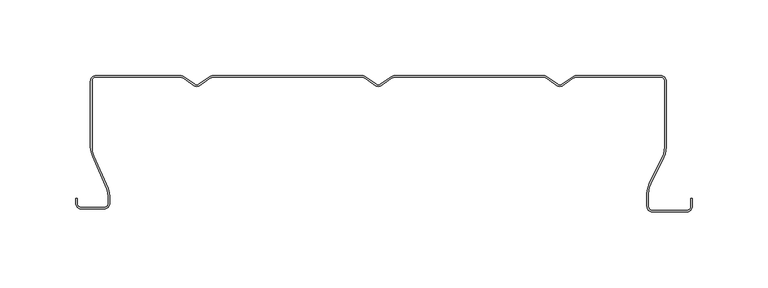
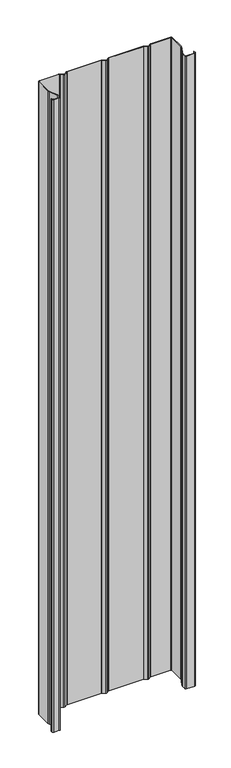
"""IFC4 building model written with IfcOpenShell, lengths in millimetres: plate geometry, HIANSA - H20.F09.006-CHAPA PERFILADA FACHADA VERTICAL - BANDEJA 90.380 - Panel de Muro Cortina : -."""

from ifc_helpers import new_model, si_unit, point, frame_2d, origin, origin_with_axes, place, context, project, spatial, polyline, circle_curve, trimmed, segment, composite_curve, outline, extrude, source, transform, mapped, element, save


def plate_6bf708f3(model_context):
    return source(origin(), model_context, "Body", "SweptSolid", [
        extrude(outline(composite_curve([segment(polyline([(206.1999998, -86.7), (206.1999998, -81.285), (207.1999998, -81.285), (207.1999998, -86.7)]), True, "CONTINUOUS"), segment(trimmed(circle_curve(frame_2d((203.6999998, -86.7)), 3.5), [point((207.1999998, -86.7))], [point((203.6999998, -90.2))], False, "CARTESIAN"), True, "CONTINUOUS"), segment(polyline([(203.6999998, -90.2), (180.6999998, -90.2)]), True, "CONTINUOUS"), segment(trimmed(circle_curve(frame_2d((180.6999998, -86.7)), 3.5), [point((180.6999998, -90.2))], [point((177.1999998, -86.7))], False, "CARTESIAN"), True, "CONTINUOUS"), segment(polyline([(177.1999998, -86.7), (177.1999998, -78.3893434)]), True, "CONTINUOUS"), segment(trimmed(circle_curve(frame_2d((192.9999998, -78.3893434)), 15.8), [point((177.1999998, -78.3893434))], [point((178.8088898, -71.442949))], False, "CARTESIAN"), True, "CONTINUOUS"), segment(polyline([(178.8088898, -71.442949), (187.3725727, -53.9478055)]), True, "CONTINUOUS"), segment(trimmed(circle_curve(frame_2d((173.8999998, -47.3531272)), 15.0), [point((187.3725727, -53.9478055))], [point((188.8999998, -47.3531272))], True, "CARTESIAN"), True, "CONTINUOUS"), segment(polyline([(188.8999998, -47.3531272), (188.8999998, -3.7)]), True, "CONTINUOUS"), segment(trimmed(circle_curve(frame_2d((186.1999998, -3.7)), 2.7), [point((188.8999998, -3.7))], [point((186.1999998, -1.0))], True, "CARTESIAN"), True, "CONTINUOUS"), segment(polyline([(186.1999998, -1.0), (130.5513065, -1.0)]), True, "CONTINUOUS"), segment(trimmed(circle_curve(frame_2d((130.5513065, -3.7)), 2.7), [point((130.5513065, -1.0))], [point((129.0026502, -1.4882894))], True, "CARTESIAN"), True, "CONTINUOUS"), segment(polyline([(129.0026502, -1.4882894), (121.7075173, -6.5963962)]), True, "CONTINUOUS"), segment(trimmed(circle_curve(frame_2d((119.6999998, -3.729364)), 3.5), [point((121.7075173, -6.5963962))], [point((117.6924824, -6.5963962))], False, "CARTESIAN"), True, "CONTINUOUS"), segment(polyline([(117.6924824, -6.5963962), (110.3973495, -1.4882894)]), True, "CONTINUOUS"), segment(trimmed(circle_curve(frame_2d((108.8486932, -3.7)), 2.7), [point((110.3973495, -1.4882894))], [point((108.8486932, -1.0))], True, "CARTESIAN"), True, "CONTINUOUS"), segment(polyline([(108.8486932, -1.0), (10.5513065, -1.0)]), True, "CONTINUOUS"), segment(trimmed(circle_curve(frame_2d((10.5513065, -3.7)), 2.7), [point((10.5513065, -1.0))], [point((9.0026502, -1.4882894))], True, "CARTESIAN"), True, "CONTINUOUS"), segment(polyline([(9.0026502, -1.4882894), (1.7075173, -6.5963962)]), True, "CONTINUOUS"), segment(trimmed(circle_curve(frame_2d((-0.3000002, -3.729364)), 3.5), [point((1.7075173, -6.5963962))], [point((-2.3075176, -6.5963962))], False, "CARTESIAN"), True, "CONTINUOUS"), segment(polyline([(-2.3075176, -6.5963962), (-9.6026505, -1.4882894)]), True, "CONTINUOUS"), segment(trimmed(circle_curve(frame_2d((-11.1513068, -3.7)), 2.7), [point((-9.6026505, -1.4882894))], [point((-11.1513068, -1.0))], True, "CARTESIAN"), True, "CONTINUOUS"), segment(polyline([(-11.1513068, -1.0), (-109.4486935, -1.0)]), True, "CONTINUOUS"), segment(trimmed(circle_curve(frame_2d((-109.4486935, -3.7)), 2.7), [point((-109.4486935, -1.0))], [point((-110.9973498, -1.4882894))], True, "CARTESIAN"), True, "CONTINUOUS"), segment(polyline([(-110.9973498, -1.4882894), (-118.2924827, -6.5963962)]), True, "CONTINUOUS"), segment(trimmed(circle_curve(frame_2d((-120.3000002, -3.729364)), 3.5), [point((-118.2924827, -6.5963962))], [point((-122.3075176, -6.5963962))], False, "CARTESIAN"), True, "CONTINUOUS"), segment(polyline([(-122.3075176, -6.5963962), (-129.6026505, -1.4882894)]), True, "CONTINUOUS"), segment(trimmed(circle_curve(frame_2d((-131.1513068, -3.7)), 2.7), [point((-129.6026505, -1.4882894))], [point((-131.1513068, -1.0))], True, "CARTESIAN"), True, "CONTINUOUS"), segment(polyline([(-131.1513068, -1.0), (-186.8000002, -1.0)]), True, "CONTINUOUS"), segment(trimmed(circle_curve(frame_2d((-186.8000002, -3.7)), 2.7), [point((-186.8000002, -1.0))], [point((-189.5000002, -3.7))], True, "CARTESIAN"), True, "CONTINUOUS"), segment(polyline([(-189.5000002, -3.7), (-189.5000002, -47.27269)]), True, "CONTINUOUS"), segment(trimmed(circle_curve(frame_2d((-174.5000002, -47.27269)), 15.0), [point((-189.5000002, -47.27269))], [point((-188.2231024, -53.3287998))], True, "CARTESIAN"), True, "CONTINUOUS"), segment(polyline([(-188.2231024, -53.3287998), (-178.7528567, -74.7883097)]), True, "CONTINUOUS"), segment(trimmed(circle_curve(frame_2d((-193.6000002, -80.192228)), 15.8), [point((-178.7528567, -74.7883097))], [point((-177.8000002, -80.192228))], False, "CARTESIAN"), True, "CONTINUOUS"), segment(polyline([(-177.8000002, -80.192228), (-177.8000002, -84.7)]), True, "CONTINUOUS"), segment(trimmed(circle_curve(frame_2d((-181.3000002, -84.7)), 3.5), [point((-177.8000002, -84.7))], [point((-181.3000002, -88.2))], False, "CARTESIAN"), True, "CONTINUOUS"), segment(polyline([(-181.3000002, -88.2), (-196.8000002, -88.2)]), True, "CONTINUOUS"), segment(trimmed(circle_curve(frame_2d((-196.8000002, -84.7)), 3.5), [point((-196.8000002, -88.2))], [point((-200.3000002, -84.7))], False, "CARTESIAN"), True, "CONTINUOUS"), segment(polyline([(-200.3000002, -84.7), (-200.3000002, -81.285), (-199.3000002, -81.285), (-199.3000002, -84.7)]), True, "CONTINUOUS"), segment(trimmed(circle_curve(frame_2d((-196.8000002, -84.7)), 2.5), [point((-199.3000002, -84.7))], [point((-196.8000002, -87.2))], True, "CARTESIAN"), True, "CONTINUOUS"), segment(polyline([(-196.8000002, -87.2), (-181.3000002, -87.2)]), True, "CONTINUOUS"), segment(trimmed(circle_curve(frame_2d((-181.3000002, -84.7)), 2.5), [point((-181.3000002, -87.2))], [point((-178.8000002, -84.7))], True, "CARTESIAN"), True, "CONTINUOUS"), segment(polyline([(-178.8000002, -84.7), (-178.8000002, -80.192228)]), True, "CONTINUOUS"), segment(trimmed(circle_curve(frame_2d((-193.6000002, -80.192228)), 14.8), [point((-178.8000002, -80.192228))], [point((-179.6813867, -75.1611049))], True, "CARTESIAN"), True, "CONTINUOUS"), segment(polyline([(-179.6813867, -75.1611049), (-189.1379758, -53.7325404)]), True, "CONTINUOUS"), segment(trimmed(circle_curve(frame_2d((-174.5000002, -47.27269)), 16.0), [point((-189.1379758, -53.7325404))], [point((-190.5000002, -47.27269))], False, "CARTESIAN"), True, "CONTINUOUS"), segment(polyline([(-190.5000002, -47.27269), (-190.5000002, -3.7)]), True, "CONTINUOUS"), segment(trimmed(circle_curve(frame_2d((-186.8000002, -3.7)), 3.7), [point((-190.5000002, -3.7))], [point((-186.8000002, 0.0))], False, "CARTESIAN"), True, "CONTINUOUS"), segment(polyline([(-186.8000002, 0.0), (-131.1513068, 0.0)]), True, "CONTINUOUS"), segment(trimmed(circle_curve(frame_2d((-131.1513068, -3.7)), 3.7), [point((-131.1513068, 0.0))], [point((-129.0290741, -0.6691374))], False, "CARTESIAN"), True, "CONTINUOUS"), segment(polyline([(-129.0290741, -0.6691374), (-121.7339412, -5.7772441)]), True, "CONTINUOUS"), segment(trimmed(circle_curve(frame_2d((-120.3000002, -3.729364)), 2.5), [point((-121.7339412, -5.7772441))], [point((-118.8660591, -5.7772441))], True, "CARTESIAN"), True, "CONTINUOUS"), segment(polyline([(-118.8660591, -5.7772441), (-111.5709262, -0.6691374)]), True, "CONTINUOUS"), segment(trimmed(circle_curve(frame_2d((-109.4486935, -3.7)), 3.7), [point((-111.5709262, -0.6691374))], [point((-109.4486935, 0.0))], False, "CARTESIAN"), True, "CONTINUOUS"), segment(polyline([(-109.4486935, 0.0), (-11.1513068, 0.0)]), True, "CONTINUOUS"), segment(trimmed(circle_curve(frame_2d((-11.1513068, -3.7)), 3.7), [point((-11.1513068, 0.0))], [point((-9.0290741, -0.6691374))], False, "CARTESIAN"), True, "CONTINUOUS"), segment(polyline([(-9.0290741, -0.6691374), (-1.7339412, -5.7772441)]), True, "CONTINUOUS"), segment(trimmed(circle_curve(frame_2d((-0.3000002, -3.729364)), 2.5), [point((-1.7339412, -5.7772441))], [point((1.1339409, -5.7772441))], True, "CARTESIAN"), True, "CONTINUOUS"), segment(polyline([(1.1339409, -5.7772441), (8.4290738, -0.6691374)]), True, "CONTINUOUS"), segment(trimmed(circle_curve(frame_2d((10.5513065, -3.7)), 3.7), [point((8.4290738, -0.6691374))], [point((10.5513065, 0.0))], False, "CARTESIAN"), True, "CONTINUOUS"), segment(polyline([(10.5513065, 0.0), (108.8486932, 0.0)]), True, "CONTINUOUS"), segment(trimmed(circle_curve(frame_2d((108.8486932, -3.7)), 3.7), [point((108.8486932, 0.0))], [point((110.9709259, -0.6691374))], False, "CARTESIAN"), True, "CONTINUOUS"), segment(polyline([(110.9709259, -0.6691374), (118.2660588, -5.7772441)]), True, "CONTINUOUS"), segment(trimmed(circle_curve(frame_2d((119.6999998, -3.729364)), 2.5), [point((118.2660588, -5.7772441))], [point((121.1339409, -5.7772441))], True, "CARTESIAN"), True, "CONTINUOUS"), segment(polyline([(121.1339409, -5.7772441), (128.4290738, -0.6691374)]), True, "CONTINUOUS"), segment(trimmed(circle_curve(frame_2d((130.5513065, -3.7)), 3.7), [point((128.4290738, -0.6691374))], [point((130.5513065, 0.0))], False, "CARTESIAN"), True, "CONTINUOUS"), segment(polyline([(130.5513065, 0.0), (186.1999998, 0.0)]), True, "CONTINUOUS"), segment(trimmed(circle_curve(frame_2d((186.1999998, -3.7)), 3.7), [point((186.1999998, 0.0))], [point((189.8999998, -3.7))], False, "CARTESIAN"), True, "CONTINUOUS"), segment(polyline([(189.8999998, -3.7), (189.8999998, -47.3531272)]), True, "CONTINUOUS"), segment(trimmed(circle_curve(frame_2d((173.8999998, -47.3531272)), 16.0), [point((189.8999998, -47.3531272))], [point((188.2707442, -54.3874507))], False, "CARTESIAN"), True, "CONTINUOUS"), segment(polyline([(188.2707442, -54.3874507), (179.7070613, -71.8825943)]), True, "CONTINUOUS"), segment(trimmed(circle_curve(frame_2d((192.9999998, -78.3893434)), 14.8), [point((179.7070613, -71.8825943))], [point((178.1999998, -78.3893434))], True, "CARTESIAN"), True, "CONTINUOUS"), segment(polyline([(178.1999998, -78.3893434), (178.1999998, -86.7)]), True, "CONTINUOUS"), segment(trimmed(circle_curve(frame_2d((180.6999998, -86.7)), 2.5), [point((178.1999998, -86.7))], [point((180.6999998, -89.2))], True, "CARTESIAN"), True, "CONTINUOUS"), segment(polyline([(180.6999998, -89.2), (203.6999998, -89.2)]), True, "CONTINUOUS"), segment(trimmed(circle_curve(frame_2d((203.6999998, -86.7)), 2.5), [point((203.6999998, -89.2))], [point((206.1999998, -86.7))], True, "CARTESIAN"), True, "CONTINUOUS")], self_intersect=False)), origin_with_axes(), (0.0, 0.0, 1.0), 1905.0),
    ])


if __name__ == "__main__":
    model = new_model("IFC4")
    model_context = context("Model", 3, world=origin())
    ifc_project = project(units=[si_unit("LENGTHUNIT", "METRE", prefix="MILLI")], contexts=[model_context])
    site = spatial("IfcSite", under=ifc_project)
    building = spatial("IfcBuilding", under=site)
    placement = place(None, origin())
    plate_shape = plate_6bf708f3(model_context)
    element("IfcPlate", 1, ObjectType="HIANSA - H20.F09.006-CHAPA PERFILADA FACHADA VERTICAL - BANDEJA 90.380 - Panel de Muro Cortina : -", at=placement, inside=building, context=model_context, shape_type="MappedRepresentation", body=[
        mapped(plate_shape, transform((0.0, 0.0, 0.0), x_axis=(1.0, 0.0, 0.0), y_axis=(0.0, 1.0, 0.0), z_axis=(0.0, 0.0, 1.0))),
    ])
    save(model, "model.ifc")
